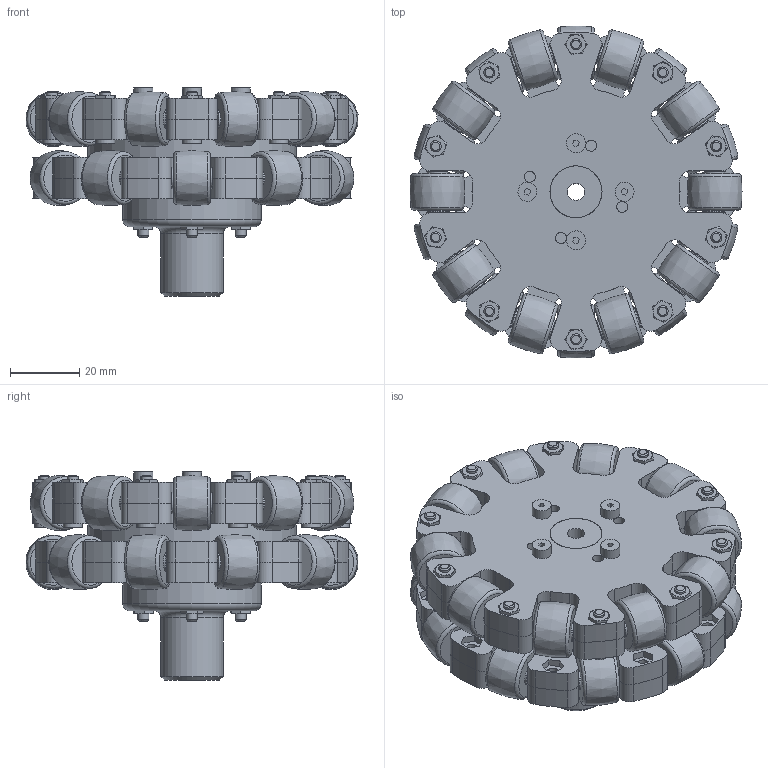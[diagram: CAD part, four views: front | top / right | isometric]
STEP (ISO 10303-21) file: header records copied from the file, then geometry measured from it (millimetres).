
FILE_DESCRIPTION(/* description */ (''),/* implementation_level */ '2;1');
FILE_NAME(/* name */ 'Assieme2.stp',/* time_stamp */ '2025-05-19T18:13:15+02:00',/* author */ ('R5800u'),/* organization */ (''),/* preprocessor_version */ 'ST-DEVELOPER v20',/* originating_system */ 'Autodesk Inventor 2025',/* authorisation */ '');
FILE_SCHEMA (('AUTOMOTIVE_DESIGN { 1 0 10303 214 3 1 1 }'));
Length unit declared in the file: millimetre
Products named in the file (12): Assieme2; Assieme1; Parte1; Parte3; Parte1_MIR; Parte4; AS 1237 - 3; vite2; blocco_centrale; perno; vite; ANSI B18.2.4.2M - M3x0,5
Assembly tree (74 placements, depth 3):
  Assieme2
    Assieme1  x2
      Parte1
      Parte3
      Parte1_MIR
      Parte4
      AS 1237 - 3
    vite2  x4
    blocco_centrale
    perno
    vite  x10
    ANSI B18.2.4.2M - M3x0,5  x14
Bounding box: 95.74 x 95.74 x 60 mm (x, y, z)
Volume: 180031.2 mm3; surface area: 98846.3 mm2
Topology: 114 solids, 114 shells, 1739 faces, 4088 edges, 2659 vertices
Faces by surface type: plane 894, cylinder 572, cone 211, torus 42, bspline 20
Full cylindrical faces by diameter (mm): 2.459 x14, 3 x20, 3.2 x154, 5 x1, 5.5 x14, 6 x40, 15 x6, 18 x1, 40 x1, 60 x1
Entity records: 18030 total; most frequent: DIRECTION 3132, CARTESIAN_POINT 3093, ORIENTED_EDGE 2878, EDGE_CURVE 1439, AXIS2_PLACEMENT_3D 1096, VERTEX_POINT 954, LINE 940, VECTOR 940
